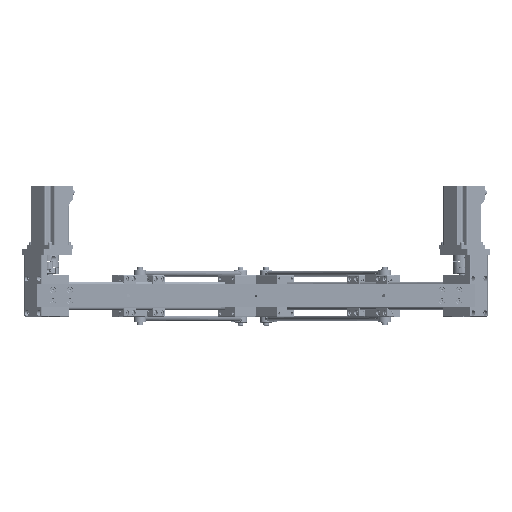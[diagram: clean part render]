
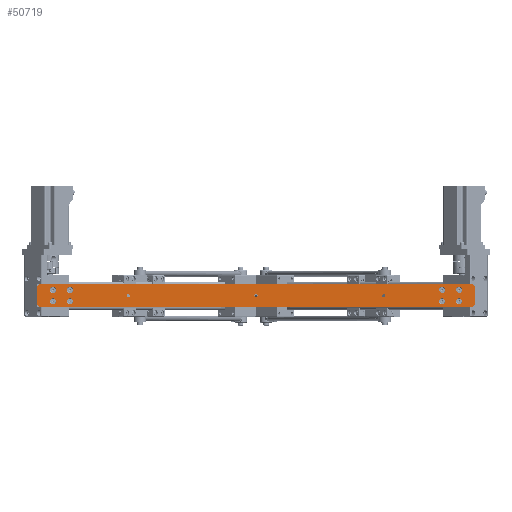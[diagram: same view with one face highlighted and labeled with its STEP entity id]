
A CAD part, top view. The second image highlights one B-rep face of the part: STEP entity #50719.
In plain terms, the highlighted planar face has unit normal (0, 0, 1).
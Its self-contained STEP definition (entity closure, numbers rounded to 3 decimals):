
#3514=FACE_BOUND('',#8196,.T.);
#3515=FACE_BOUND('',#8197,.T.);
#3516=FACE_BOUND('',#8198,.T.);
#3517=FACE_BOUND('',#8199,.T.);
#3518=FACE_BOUND('',#8200,.T.);
#3519=FACE_BOUND('',#8201,.T.);
#3520=FACE_BOUND('',#8202,.T.);
#3521=FACE_BOUND('',#8203,.T.);
#3522=FACE_BOUND('',#8204,.T.);
#3523=FACE_BOUND('',#8205,.T.);
#3524=FACE_BOUND('',#8206,.T.);
#3976=PLANE('',#55107);
#5320=FACE_OUTER_BOUND('',#8195,.T.);
#8195=EDGE_LOOP('',(#35211,#35212,#35213,#35214,#35215,#35216,#35217,#35218));
#8196=EDGE_LOOP('',(#35219));
#8197=EDGE_LOOP('',(#35220));
#8198=EDGE_LOOP('',(#35221));
#8199=EDGE_LOOP('',(#35222));
#8200=EDGE_LOOP('',(#35223,#35224));
#8201=EDGE_LOOP('',(#35225,#35226));
#8202=EDGE_LOOP('',(#35227,#35228));
#8203=EDGE_LOOP('',(#35229));
#8204=EDGE_LOOP('',(#35230));
#8205=EDGE_LOOP('',(#35231));
#8206=EDGE_LOOP('',(#35232));
#11532=LINE('',#76963,#15574);
#11533=LINE('',#76965,#15575);
#11534=LINE('',#76967,#15576);
#11535=LINE('',#76969,#15577);
#11536=LINE('',#76971,#15578);
#11537=LINE('',#76973,#15579);
#11538=LINE('',#76975,#15580);
#11539=LINE('',#76976,#15581);
#15574=VECTOR('',#61051,10.);
#15575=VECTOR('',#61052,10.);
#15576=VECTOR('',#61053,10.);
#15577=VECTOR('',#61054,10.);
#15578=VECTOR('',#61055,10.);
#15579=VECTOR('',#61056,10.);
#15580=VECTOR('',#61057,10.);
#15581=VECTOR('',#61058,10.);
#19615=CIRCLE('',#55105,5.25);
#19617=CIRCLE('',#55108,5.25);
#19618=CIRCLE('',#55109,5.25);
#19619=CIRCLE('',#55110,5.25);
#19620=CIRCLE('',#55111,5.25);
#19621=CIRCLE('',#55112,2.75);
#19622=CIRCLE('',#55113,2.75);
#19623=CIRCLE('',#55114,2.75);
#19624=CIRCLE('',#55115,2.75);
#19625=CIRCLE('',#55116,2.75);
#19626=CIRCLE('',#55117,2.75);
#19627=CIRCLE('',#55118,5.25);
#19628=CIRCLE('',#55119,5.25);
#19629=CIRCLE('',#55120,5.25);
#22464=VERTEX_POINT('',#76955);
#22466=VERTEX_POINT('',#76961);
#22467=VERTEX_POINT('',#76962);
#22468=VERTEX_POINT('',#76964);
#22469=VERTEX_POINT('',#76966);
#22470=VERTEX_POINT('',#76968);
#22471=VERTEX_POINT('',#76970);
#22472=VERTEX_POINT('',#76972);
#22473=VERTEX_POINT('',#76974);
#22474=VERTEX_POINT('',#76977);
#22475=VERTEX_POINT('',#76979);
#22476=VERTEX_POINT('',#76981);
#22477=VERTEX_POINT('',#76983);
#22478=VERTEX_POINT('',#76985);
#22479=VERTEX_POINT('',#76986);
#22480=VERTEX_POINT('',#76989);
#22481=VERTEX_POINT('',#76990);
#22482=VERTEX_POINT('',#76993);
#22483=VERTEX_POINT('',#76994);
#22484=VERTEX_POINT('',#76997);
#22485=VERTEX_POINT('',#76999);
#22486=VERTEX_POINT('',#77001);
#27545=EDGE_CURVE('',#22464,#22464,#19615,.T.);
#27548=EDGE_CURVE('',#22466,#22467,#11532,.T.);
#27549=EDGE_CURVE('',#22466,#22468,#11533,.T.);
#27550=EDGE_CURVE('',#22469,#22468,#11534,.T.);
#27551=EDGE_CURVE('',#22469,#22470,#11535,.T.);
#27552=EDGE_CURVE('',#22471,#22470,#11536,.T.);
#27553=EDGE_CURVE('',#22471,#22472,#11537,.T.);
#27554=EDGE_CURVE('',#22473,#22472,#11538,.T.);
#27555=EDGE_CURVE('',#22473,#22467,#11539,.T.);
#27556=EDGE_CURVE('',#22474,#22474,#19617,.T.);
#27557=EDGE_CURVE('',#22475,#22475,#19618,.T.);
#27558=EDGE_CURVE('',#22476,#22476,#19619,.T.);
#27559=EDGE_CURVE('',#22477,#22477,#19620,.T.);
#27560=EDGE_CURVE('',#22478,#22479,#19621,.T.);
#27561=EDGE_CURVE('',#22479,#22478,#19622,.T.);
#27562=EDGE_CURVE('',#22480,#22481,#19623,.T.);
#27563=EDGE_CURVE('',#22481,#22480,#19624,.T.);
#27564=EDGE_CURVE('',#22482,#22483,#19625,.T.);
#27565=EDGE_CURVE('',#22483,#22482,#19626,.T.);
#27566=EDGE_CURVE('',#22484,#22484,#19627,.T.);
#27567=EDGE_CURVE('',#22485,#22485,#19628,.T.);
#27568=EDGE_CURVE('',#22486,#22486,#19629,.T.);
#35211=ORIENTED_EDGE('',*,*,#27548,.F.);
#35212=ORIENTED_EDGE('',*,*,#27549,.T.);
#35213=ORIENTED_EDGE('',*,*,#27550,.F.);
#35214=ORIENTED_EDGE('',*,*,#27551,.T.);
#35215=ORIENTED_EDGE('',*,*,#27552,.F.);
#35216=ORIENTED_EDGE('',*,*,#27553,.T.);
#35217=ORIENTED_EDGE('',*,*,#27554,.F.);
#35218=ORIENTED_EDGE('',*,*,#27555,.T.);
#35219=ORIENTED_EDGE('',*,*,#27556,.F.);
#35220=ORIENTED_EDGE('',*,*,#27557,.F.);
#35221=ORIENTED_EDGE('',*,*,#27558,.F.);
#35222=ORIENTED_EDGE('',*,*,#27559,.F.);
#35223=ORIENTED_EDGE('',*,*,#27560,.T.);
#35224=ORIENTED_EDGE('',*,*,#27561,.T.);
#35225=ORIENTED_EDGE('',*,*,#27562,.T.);
#35226=ORIENTED_EDGE('',*,*,#27563,.T.);
#35227=ORIENTED_EDGE('',*,*,#27564,.T.);
#35228=ORIENTED_EDGE('',*,*,#27565,.T.);
#35229=ORIENTED_EDGE('',*,*,#27566,.F.);
#35230=ORIENTED_EDGE('',*,*,#27567,.F.);
#35231=ORIENTED_EDGE('',*,*,#27568,.F.);
#35232=ORIENTED_EDGE('',*,*,#27545,.F.);
#50719=ADVANCED_FACE('',(#5320,#3514,#3515,#3516,#3517,#3518,#3519,#3520,
#3521,#3522,#3523,#3524),#3976,.T.);
#55105=AXIS2_PLACEMENT_3D('',#76956,#61044,#61045);
#55107=AXIS2_PLACEMENT_3D('',#76960,#61049,#61050);
#55108=AXIS2_PLACEMENT_3D('',#76978,#61059,#61060);
#55109=AXIS2_PLACEMENT_3D('',#76980,#61061,#61062);
#55110=AXIS2_PLACEMENT_3D('',#76982,#61063,#61064);
#55111=AXIS2_PLACEMENT_3D('',#76984,#61065,#61066);
#55112=AXIS2_PLACEMENT_3D('',#76987,#61067,#61068);
#55113=AXIS2_PLACEMENT_3D('',#76988,#61069,#61070);
#55114=AXIS2_PLACEMENT_3D('',#76991,#61071,#61072);
#55115=AXIS2_PLACEMENT_3D('',#76992,#61073,#61074);
#55116=AXIS2_PLACEMENT_3D('',#76995,#61075,#61076);
#55117=AXIS2_PLACEMENT_3D('',#76996,#61077,#61078);
#55118=AXIS2_PLACEMENT_3D('',#76998,#61079,#61080);
#55119=AXIS2_PLACEMENT_3D('',#77000,#61081,#61082);
#55120=AXIS2_PLACEMENT_3D('',#77002,#61083,#61084);
#61044=DIRECTION('center_axis',(0.,0.,1.));
#61045=DIRECTION('ref_axis',(-1.,0.,0.));
#61049=DIRECTION('center_axis',(0.,0.,1.));
#61050=DIRECTION('ref_axis',(1.,0.,0.));
#61051=DIRECTION('',(-0.707,-0.707,0.));
#61052=DIRECTION('',(0.,1.,0.));
#61053=DIRECTION('',(0.707,-0.707,0.));
#61054=DIRECTION('',(-1.,0.,0.));
#61055=DIRECTION('',(0.707,0.707,0.));
#61056=DIRECTION('',(0.,-1.,0.));
#61057=DIRECTION('',(-0.707,0.707,0.));
#61058=DIRECTION('',(1.,0.,0.));
#61059=DIRECTION('center_axis',(0.,0.,1.));
#61060=DIRECTION('ref_axis',(-1.,0.,0.));
#61061=DIRECTION('center_axis',(0.,0.,1.));
#61062=DIRECTION('ref_axis',(-1.,0.,0.));
#61063=DIRECTION('center_axis',(0.,0.,1.));
#61064=DIRECTION('ref_axis',(-1.,0.,0.));
#61065=DIRECTION('center_axis',(0.,0.,1.));
#61066=DIRECTION('ref_axis',(-1.,0.,0.));
#61067=DIRECTION('center_axis',(0.,0.,-1.));
#61068=DIRECTION('ref_axis',(1.,0.,0.));
#61069=DIRECTION('center_axis',(0.,0.,-1.));
#61070=DIRECTION('ref_axis',(1.,0.,0.));
#61071=DIRECTION('center_axis',(0.,0.,-1.));
#61072=DIRECTION('ref_axis',(1.,0.,0.));
#61073=DIRECTION('center_axis',(0.,0.,-1.));
#61074=DIRECTION('ref_axis',(1.,0.,0.));
#61075=DIRECTION('center_axis',(0.,0.,-1.));
#61076=DIRECTION('ref_axis',(1.,0.,0.));
#61077=DIRECTION('center_axis',(0.,0.,-1.));
#61078=DIRECTION('ref_axis',(1.,0.,0.));
#61079=DIRECTION('center_axis',(0.,0.,1.));
#61080=DIRECTION('ref_axis',(-1.,0.,0.));
#61081=DIRECTION('center_axis',(0.,0.,1.));
#61082=DIRECTION('ref_axis',(-1.,0.,0.));
#61083=DIRECTION('center_axis',(0.,0.,1.));
#61084=DIRECTION('ref_axis',(-1.,0.,0.));
#76955=CARTESIAN_POINT('',(363.199,-10.,6.));
#76956=CARTESIAN_POINT('Origin',(357.949,-10.,6.));
#76960=CARTESIAN_POINT('Origin',(0.,0.,
6.));
#76961=CARTESIAN_POINT('',(386.434,-15.,6.));
#76962=CARTESIAN_POINT('',(381.434,-20.,6.));
#76963=CARTESIAN_POINT('',(292.326,-109.109,6.));
#76964=CARTESIAN_POINT('',(386.434,15.,6.));
#76965=CARTESIAN_POINT('',(386.434,-20.,6.));
#76966=CARTESIAN_POINT('',(381.434,20.,6.));
#76967=CARTESIAN_POINT('',(292.326,109.109,6.));
#76968=CARTESIAN_POINT('',(-381.434,20.,6.));
#76969=CARTESIAN_POINT('',(386.434,20.,6.));
#76970=CARTESIAN_POINT('',(-386.434,15.,6.));
#76971=CARTESIAN_POINT('',(-292.326,109.109,6.));
#76972=CARTESIAN_POINT('',(-386.434,-15.,6.));
#76973=CARTESIAN_POINT('',(-386.434,20.,6.));
#76974=CARTESIAN_POINT('',(-381.434,-20.,6.));
#76975=CARTESIAN_POINT('',(-292.326,-109.109,6.));
#76976=CARTESIAN_POINT('',(-386.434,-20.,6.));
#76977=CARTESIAN_POINT('',(363.199,10.,6.));
#76978=CARTESIAN_POINT('Origin',(357.949,10.,6.));
#76979=CARTESIAN_POINT('',(333.199,10.,6.));
#76980=CARTESIAN_POINT('Origin',(327.949,10.,6.));
#76981=CARTESIAN_POINT('',(-322.699,-10.,6.));
#76982=CARTESIAN_POINT('Origin',(-327.949,-10.,6.));
#76983=CARTESIAN_POINT('',(-352.699,10.,6.));
#76984=CARTESIAN_POINT('Origin',(-357.949,10.,6.));
#76985=CARTESIAN_POINT('',(227.75,0.,6.));
#76986=CARTESIAN_POINT('',(222.25,0.,6.));
#76987=CARTESIAN_POINT('Origin',(225.,0.,6.));
#76988=CARTESIAN_POINT('Origin',(225.,0.,6.));
#76989=CARTESIAN_POINT('',(-222.25,0.,6.));
#76990=CARTESIAN_POINT('',(-227.75,0.,6.));
#76991=CARTESIAN_POINT('Origin',(-225.,0.,6.));
#76992=CARTESIAN_POINT('Origin',(-225.,0.,6.));
#76993=CARTESIAN_POINT('',(2.75,0.,6.));
#76994=CARTESIAN_POINT('',(-2.75,0.,6.));
#76995=CARTESIAN_POINT('Origin',(0.,0.,6.));
#76996=CARTESIAN_POINT('Origin',(0.,0.,6.));
#76997=CARTESIAN_POINT('',(-352.699,-10.,6.));
#76998=CARTESIAN_POINT('Origin',(-357.949,-10.,6.));
#76999=CARTESIAN_POINT('',(-322.699,10.,6.));
#77000=CARTESIAN_POINT('Origin',(-327.949,10.,6.));
#77001=CARTESIAN_POINT('',(333.199,-10.,6.));
#77002=CARTESIAN_POINT('Origin',(327.949,-10.,6.));
